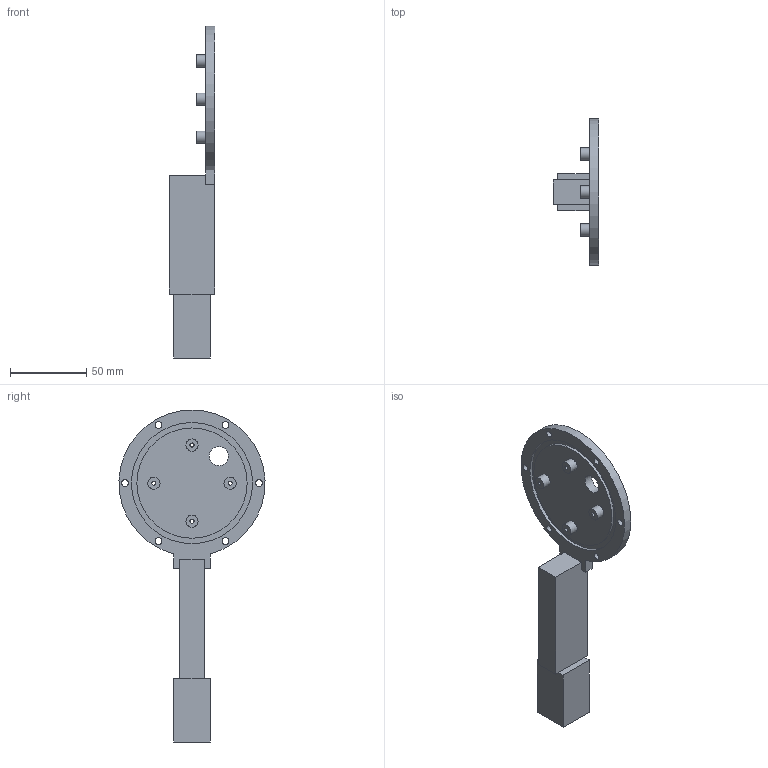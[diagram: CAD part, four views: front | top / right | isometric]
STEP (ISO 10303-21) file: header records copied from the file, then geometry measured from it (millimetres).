
FILE_DESCRIPTION(('Open CASCADE Model'),'2;1');
FILE_NAME('Open CASCADE Shape Model','2026-11-03T01:23:15',('Author'),( 'Open CASCADE'),'Open CASCADE STEP processor 7.9','Open CASCADE 7.9' ,'Unknown');
FILE_SCHEMA(('AUTOMOTIVE_DESIGN { 1 0 10303 214 1 1 1 1 }'));
Length unit declared in the file: millimetre
Products named in the file (1): Open CASCADE STEP translator 7.9 3
Bounding box: 30 x 95.92 x 218 mm (x, y, z)
Volume: 95618.6 mm3; surface area: 33298.1 mm2
Topology: 1 solids, 1 shells, 53 faces, 116 edges, 76 vertices
Faces by surface type: plane 30, cylinder 23
Full cylindrical faces by diameter (mm): 2.7 x4, 4.4 x6, 5.5 x4, 8 x4, 12.5 x1, 16.2 x1, 72.4 x1, 79.6 x1
Entity records: 3025 total; most frequent: CARTESIAN_POINT 506, DIRECTION 489, LINE 246, VECTOR 246, ORIENTED_EDGE 232, PCURVE 232, DEFINITIONAL_REPRESENTATION 232, EDGE_CURVE 116
